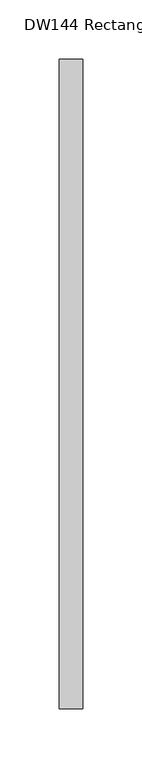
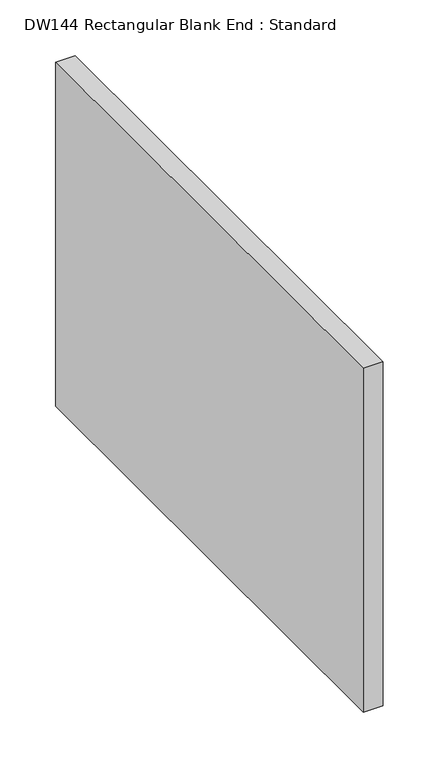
"""IFC4 building model written with IfcOpenShell, lengths in millimetres: duct fitting geometry, DW144 Rectangular Blank End : Standard."""

from ifc_helpers import new_model, si_unit, frame, origin, place, context, project, spatial, polyline, outline, extrude, source, transform, mapped, element, save


def dw144_rectangular_blank_end_standard_206001e8(model_context):
    return source(origin(), model_context, "Body", "SweptSolid", [
        extrude(outline(polyline([(20.0, 275.0), (20.0, -275.0), (0.0, -275.0), (0.0, 275.0), (20.0, 275.0)])), frame((0.0, 0.0, -187.5), z_axis=(0.0, 0.0, 1.0), x_axis=(1.0, 0.0, 0.0)), (0.0, 0.0, 1.0), 375.0),
    ])


if __name__ == "__main__":
    model = new_model("IFC4")
    model_context = context("Model", 3, world=origin())
    ifc_project = project(units=[si_unit("LENGTHUNIT", "METRE", prefix="MILLI")], contexts=[model_context])
    site = spatial("IfcSite", under=ifc_project)
    building = spatial("IfcBuilding", under=site)
    placement = place(None, origin())
    dw144_rectangular_blank_end_standard_shape = dw144_rectangular_blank_end_standard_206001e8(model_context)
    element("IfcDuctFitting", 1, ObjectType="DW144 Rectangular Blank End : Standard", at=placement, inside=building, context=model_context, shape_type="MappedRepresentation", body=[
        mapped(dw144_rectangular_blank_end_standard_shape, transform((0.0, 0.0, 0.0), x_axis=(1.0, 0.0, 0.0), y_axis=(0.0, 1.0, 0.0), z_axis=(0.0, 0.0, 1.0))),
    ])
    save(model, "model.ifc")
